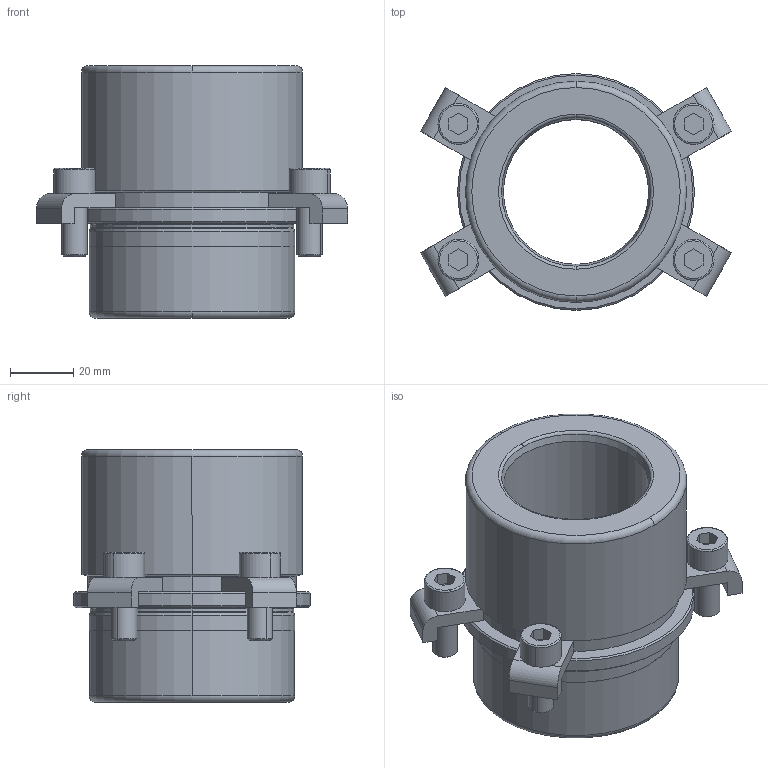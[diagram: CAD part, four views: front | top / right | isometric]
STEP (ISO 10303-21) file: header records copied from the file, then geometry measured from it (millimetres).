
FILE_DESCRIPTION((''),'2;1');
FILE_NAME('B40_038_050.stp','2009-01-05T16:30:05',(''),(''),'Mechanical Desktop 2009','Mechanical Desktop 2009',', , ');
FILE_SCHEMA(('CONFIG_CONTROL_DESIGN'));
Length unit declared in the file: millimetre
Products named in the file (2): Product; blmdl1
Assembly tree (1 placements, depth 2):
  Product
    blmdl1
Bounding box: 98.54 x 75 x 80 mm (x, y, z)
Volume: 172006.1 mm3; surface area: 43209.1 mm2
Topology: 9 solids, 9 shells, 173 faces, 422 edges, 278 vertices
Faces by surface type: plane 73, cylinder 50, cone 22, torus 16, bspline 12
Entity records: 5767 total; most frequent: CARTESIAN_POINT 1403, DIRECTION 966, ORIENTED_EDGE 844, EDGE_CURVE 422, AXIS2_PLACEMENT_3D 381, VERTEX_POINT 278, CIRCLE 218, VECTOR 204
